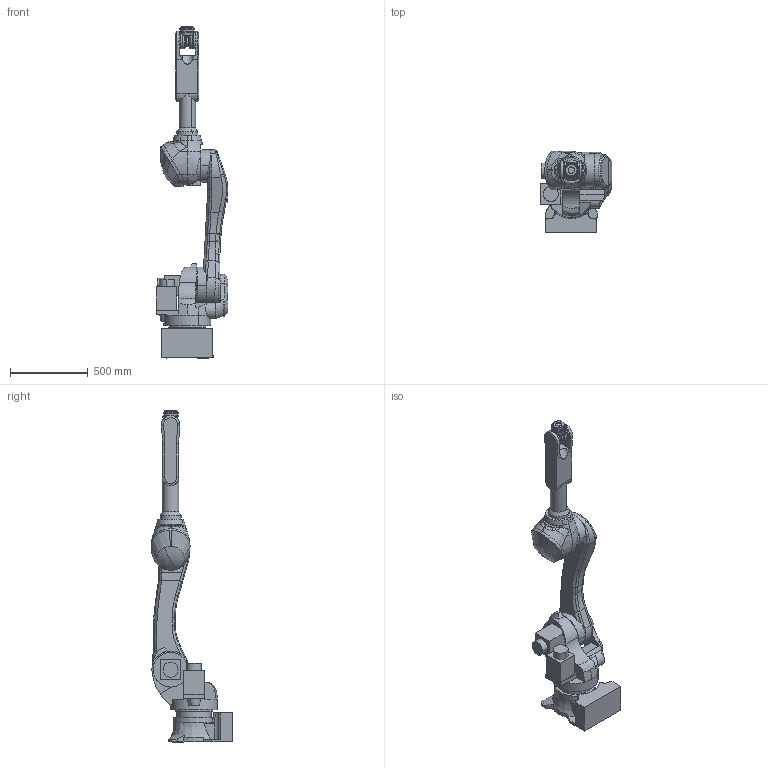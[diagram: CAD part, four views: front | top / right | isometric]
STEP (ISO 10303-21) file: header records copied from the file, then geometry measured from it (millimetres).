
FILE_DESCRIPTION(('CATIA V5 STEP'),'2;1');
FILE_NAME('C:\Users\nakase_mika\Desktop\技術情報DLサイト\RA020N.stp','2018-05-11T09:50:13+00:00',('none'),('none'),'CATIA Version 5-6 Release 2016 SP4 HF10','CATIA V5 STEP AP203','none');
FILE_SCHEMA(('CONFIG_CONTROL_DESIGN'));
Length unit declared in the file: millimetre
Products named in the file (1): RA020N
Assembly tree (7 placements, depth 2):
  RA020N
    #57
    #2373
    #6113
    #15770
    #20183
    #22029
    #24470
Bounding box: 459.5 x 524.98 x 2135 mm (x, y, z)
Volume: 49147631.1 mm3; surface area: 2677439.5 mm2
Topology: 5 solids, 7 shells, 468 faces, 1233 edges, 781 vertices
Faces by surface type: plane 149, cylinder 123, bspline 121, revolution 75
Entity records: 25356 total; most frequent: CARTESIAN_POINT 15456, ORIENTED_EDGE 2429, EDGE_CURVE 1227, DIRECTION 1190, VERTEX_POINT 781, B_SPLINE_CURVE_WITH_KNOTS 725, AXIS2_PLACEMENT_3D 485, EDGE_LOOP 483
